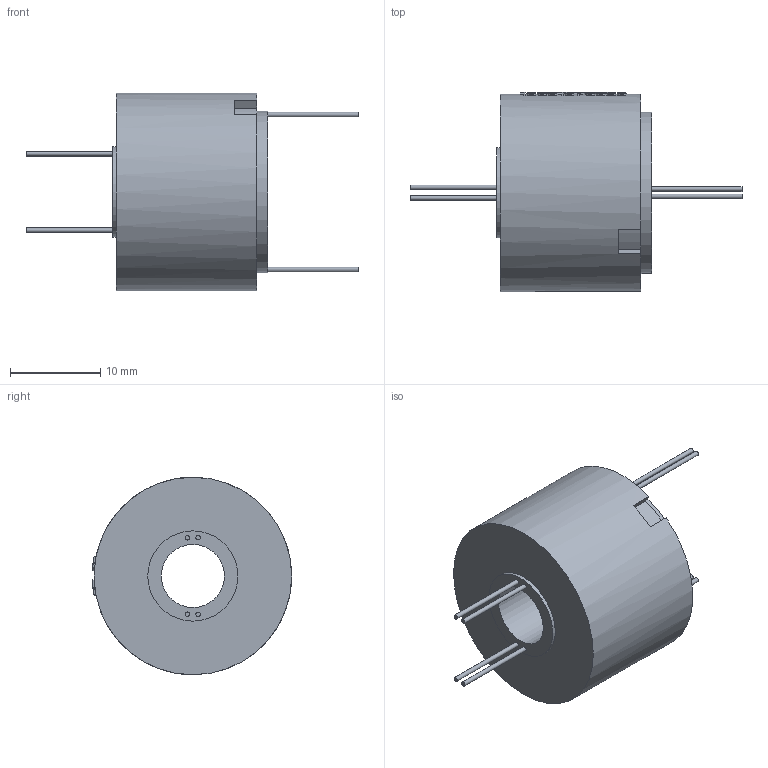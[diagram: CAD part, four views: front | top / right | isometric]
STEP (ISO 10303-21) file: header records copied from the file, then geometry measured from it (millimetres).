
FILE_DESCRIPTION(/* description */ (''),/* implementation_level */ '2;1');
FILE_NAME(/* name */ 'HM0722-0402-3D模型.stp',/* time_stamp */ '2025-09-05T10:26:41+08:00',/* author */ (''),/* organization */ (''),/* preprocessor_version */ 'ST-DEVELOPER v16.7',/* originating_system */ 'SIEMENS PLM Software NX 12.0',/* authorisation */ '');
FILE_SCHEMA (('AUTOMOTIVE_DESIGN { 1 0 10303 214 3 1 1 1 }'));
Length unit declared in the file: millimetre
Products named in the file (1): Admi30D0F0663bdy
Bounding box: 36.8 x 22.09 x 21.9 mm (x, y, z)
Volume: 5548.5 mm3; surface area: 2368.2 mm2
Topology: 1 solids, 1 shells, 561 faces, 1540 edges, 1028 vertices
Faces by surface type: extrusion 311, plane 199, bspline 26, cylinder 25
Full cylindrical faces by diameter (mm): 0.493 x8, 7 x1, 10 x1, 17.889 x1, 21.9 x1
Entity records: 23403 total; most frequent: CARTESIAN_POINT 11561, ORIENTED_EDGE 3046, B_SPLINE_CURVE_WITH_KNOTS 1557, EDGE_CURVE 1523, DIRECTION 1201, VERTEX_POINT 1023, EDGE_LOOP 622, ADVANCED_FACE 561
